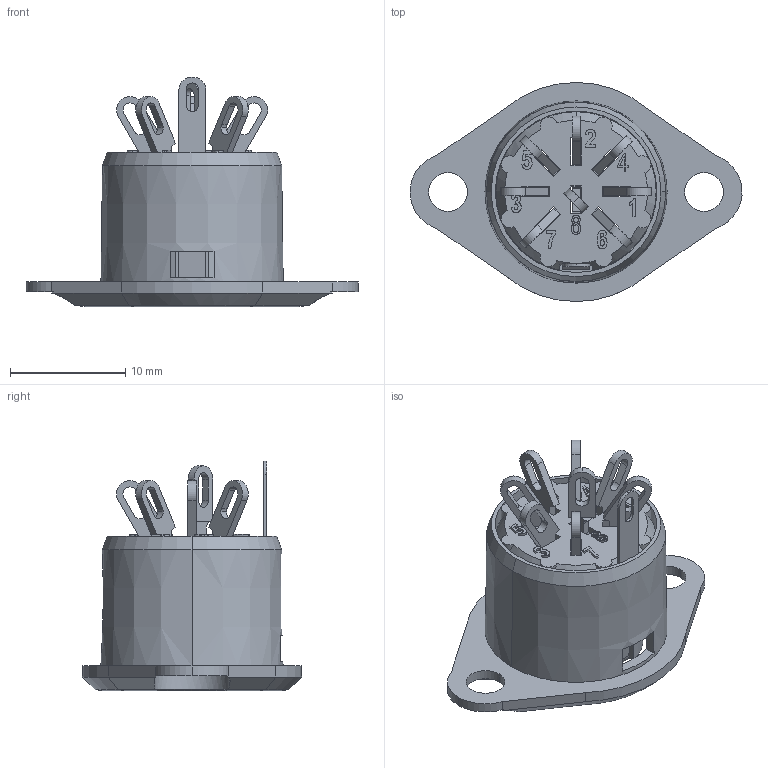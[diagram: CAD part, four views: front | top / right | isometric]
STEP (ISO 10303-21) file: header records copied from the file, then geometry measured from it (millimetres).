
FILE_DESCRIPTION (( 'STEP AP214' ), '1' );
FILE_NAME ('630-0800.STEP', '2020-01-24T12:02:35', ( '' ), ( '' ), 'SwSTEP 2.0', 'SolidWorks 2018', '' );
FILE_SCHEMA (( 'AUTOMOTIVE_DESIGN' ));
Length unit declared in the file: millimetre
Products named in the file (1): 630-0800
Bounding box: 28.79 x 19 x 19.92 mm (x, y, z)
Volume: 1976 mm3; surface area: 4242.4 mm2
Topology: 11 solids, 11 shells, 598 faces, 1641 edges, 1086 vertices
Faces by surface type: plane 383, cylinder 133, bspline 64, cone 18
Entity records: 28984 total; most frequent: CARTESIAN_POINT 7244, ORIENTED_EDGE 3282, DIRECTION 2832, EDGE_CURVE 1641, LINE 1174, VECTOR 1174, VERTEX_POINT 1086, AXIS2_PLACEMENT_3D 829
